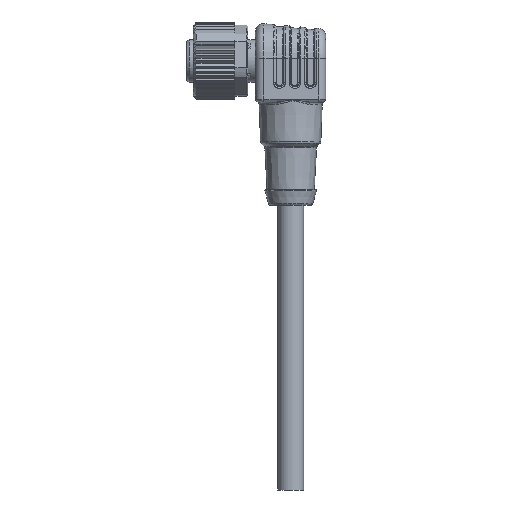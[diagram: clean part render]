
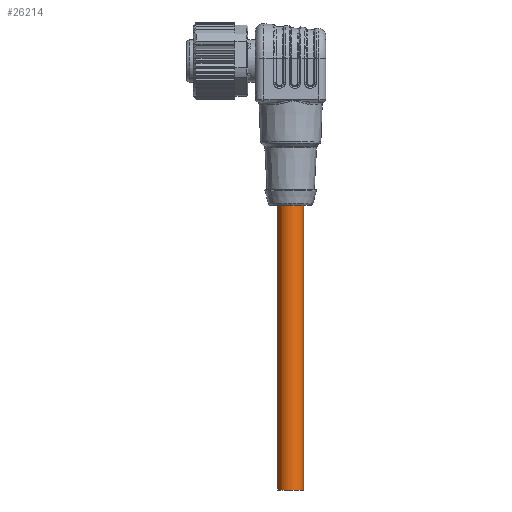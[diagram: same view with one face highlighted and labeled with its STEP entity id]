
A CAD part, front view. The second image highlights one B-rep face of the part: STEP entity #26214.
In plain terms, the highlighted cylindrical face has radius 2.5 mm (diameter 5 mm), a partial arc.
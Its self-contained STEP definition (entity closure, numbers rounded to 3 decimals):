
#10 = DIRECTION ( 'NONE',  ( -1., 0., 0. ) ) ;
#23 = EDGE_CURVE ( 'NONE', #29086, #26864, #3379, .T. ) ;
#664 = CARTESIAN_POINT ( 'NONE',  ( 8.3, 0., -27.95 ) ) ;
#1234 = CARTESIAN_POINT ( 'NONE',  ( 8.3, 0., -32.95 ) ) ;
#2366 = DIRECTION ( 'NONE',  ( 0., 0., -1. ) ) ;
#2780 = EDGE_CURVE ( 'NONE', #22781, #20269, #26677, .T. ) ;
#3379 = CIRCLE ( 'NONE', #40731, 2.5 ) ;
#6632 = CYLINDRICAL_SURFACE ( 'NONE', #12299, 2.5 ) ;
#7494 = ORIENTED_EDGE ( 'NONE', *, *, #23, .T. ) ;
#7507 = DIRECTION ( 'NONE',  ( 0., 0., -1. ) ) ;
#7704 = LINE ( 'NONE', #44689, #10536 ) ;
#10536 = VECTOR ( 'NONE', #26176, 1000. ) ;
#12299 = AXIS2_PLACEMENT_3D ( 'NONE', #1234, #41406, #19564 ) ;
#14066 = CARTESIAN_POINT ( 'NONE',  ( 10.8, 0., -27.95 ) ) ;
#15255 = EDGE_CURVE ( 'NONE', #22781, #26864, #7704, .T. ) ;
#16519 = LINE ( 'NONE', #20542, #44510 ) ;
#17275 = ORIENTED_EDGE ( 'NONE', *, *, #21411, .T. ) ;
#17539 = ORIENTED_EDGE ( 'NONE', *, *, #2780, .T. ) ;
#19564 = DIRECTION ( 'NONE',  ( -1., 0., 0. ) ) ;
#20038 = CARTESIAN_POINT ( 'NONE',  ( 8.3, 0., -82.95 ) ) ;
#20269 = VERTEX_POINT ( 'NONE', #25142 ) ;
#20285 = CARTESIAN_POINT ( 'NONE',  ( 10.8, 0., -82.95 ) ) ;
#20542 = CARTESIAN_POINT ( 'NONE',  ( 5.8, 0., -32.95 ) ) ;
#21209 = AXIS2_PLACEMENT_3D ( 'NONE', #664, #7507, #10 ) ;
#21411 = EDGE_CURVE ( 'NONE', #20269, #29086, #16519, .T. ) ;
#22781 = VERTEX_POINT ( 'NONE', #14066 ) ;
#23076 = ORIENTED_EDGE ( 'NONE', *, *, #15255, .F. ) ;
#25142 = CARTESIAN_POINT ( 'NONE',  ( 5.8, 0., -27.95 ) ) ;
#26176 = DIRECTION ( 'NONE',  ( 0., 0., -1. ) ) ;
#26214 = ADVANCED_FACE ( 'NONE', ( #44338 ), #6632, .T. ) ;
#26677 = CIRCLE ( 'NONE', #21209, 2.5 ) ;
#26864 = VERTEX_POINT ( 'NONE', #20285 ) ;
#27835 = DIRECTION ( 'NONE',  ( 1., 0., 0. ) ) ;
#29086 = VERTEX_POINT ( 'NONE', #41114 ) ;
#40731 = AXIS2_PLACEMENT_3D ( 'NONE', #20038, #42357, #27835 ) ;
#41114 = CARTESIAN_POINT ( 'NONE',  ( 5.8, 0., -82.95 ) ) ;
#41406 = DIRECTION ( 'NONE',  ( 0., 0., -1. ) ) ;
#42357 = DIRECTION ( 'NONE',  ( 0., 0., 1. ) ) ;
#44338 = FACE_OUTER_BOUND ( 'NONE', #45811, .T. ) ;
#44510 = VECTOR ( 'NONE', #2366, 1000. ) ;
#44689 = CARTESIAN_POINT ( 'NONE',  ( 10.8, 0., -32.95 ) ) ;
#45811 = EDGE_LOOP ( 'NONE', ( #23076, #17539, #17275, #7494 ) ) ;
